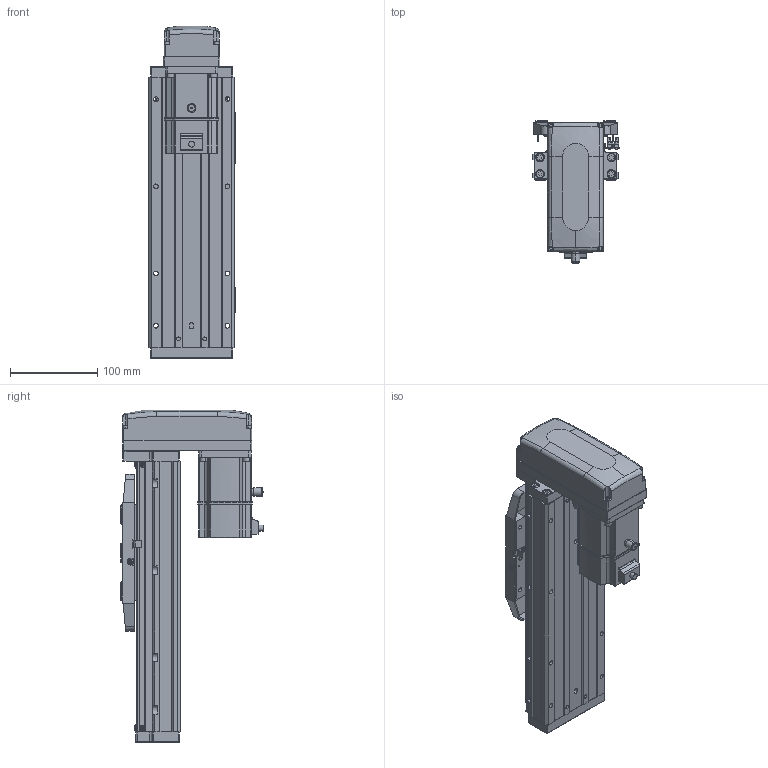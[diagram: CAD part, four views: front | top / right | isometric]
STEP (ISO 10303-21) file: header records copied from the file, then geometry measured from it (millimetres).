
FILE_DESCRIPTION (( 'STEP AP203' ), '1' );
FILE_NAME ('CTHA100-100-BM-M20-C4L.step', '2022-07-06T09:02:25', ( '微软用户' ), ( '微软中国' ), 'SwSTEP 2.0', 'SolidWorks 2020', '' );
FILE_SCHEMA (( 'CONFIG_CONTROL_DESIGN' ));
Length unit declared in the file: millimetre
Products named in the file (19): CTHA60-017; CTHA100-002; CTHA60-021; CTHA100-031; KTHA100-001_310; GBT77-2000 M3×3; CTHA86-030; KTHA100-004; GBT 70.1-M3℅6; GBT 70.3-M3℅6; KTHA100-005; GBT70.1 M5℅16; CTHA86-015-1_CTHA86-015-2; GB¨uT 70.2-M3¡Á5_M3¡Á6; CTHA60-016; CTHA86-033; EE_SX911P_R; _X2_4E0983F1_X0_200W_1; CTHA100-100-BM-M20-C4L
Assembly tree (64 placements, depth 2):
  CTHA100-100-BM-M20-C4L
    KTHA100-001_310
    KTHA100-004
    KTHA100-005
    GB¨uT 70.2-M3¡Á5_M3¡Á6  x10
    EE_SX911P_R  x3
    CTHA60-017  x3
    CTHA60-021  x2
    GBT77-2000 M3×3  x6
    GBT 70.1-M3℅6  x10
    GBT70.1 M5℅16  x14
    CTHA60-016  x2
    _X2_4E0983F1_X0_200W_1
    CTHA100-002
    CTHA100-031
    CTHA86-030  x2
    GBT 70.3-M3℅6  x4
    CTHA86-015-1_CTHA86-015-2
    CTHA86-033
Bounding box: 98.82 x 163.2 x 381 mm (x, y, z)
Volume: 2081429.5 mm3; surface area: 382107 mm2
Topology: 66 solids, 66 shells, 2589 faces, 6191 edges, 3832 vertices
Faces by surface type: plane 1344, cylinder 677, cone 345, torus 124, bspline 75, sphere 24
Entity records: 43408 total; most frequent: CARTESIAN_POINT 8587, DIRECTION 6654, ORIENTED_EDGE 6498, EDGE_CURVE 3249, AXIS2_PLACEMENT_3D 2271, VECTOR 2112, LINE 2112, VERTEX_POINT 2052
